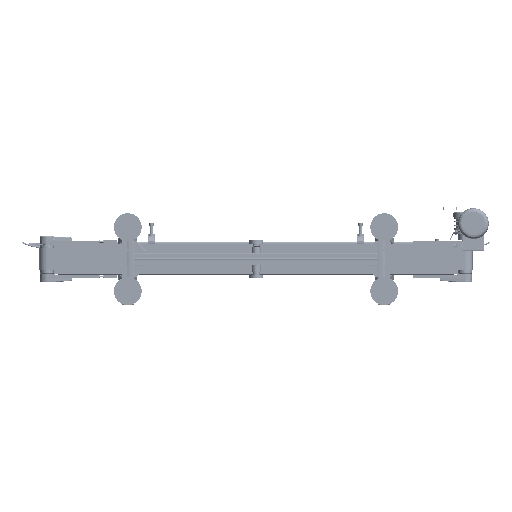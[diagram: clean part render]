
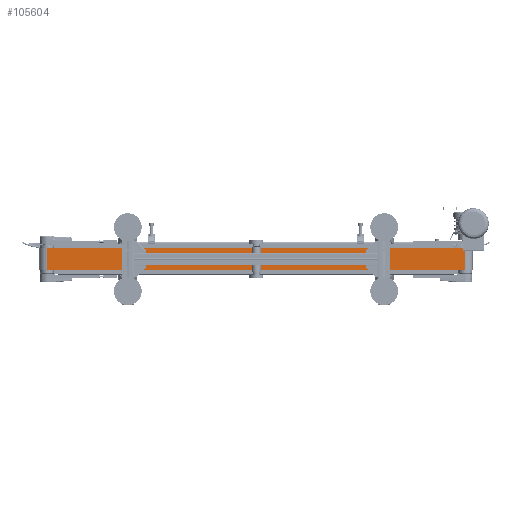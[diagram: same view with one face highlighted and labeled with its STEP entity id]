
A CAD part, front view. The second image highlights one B-rep face of the part: STEP entity #105604.
In plain terms, the highlighted planar face has unit normal (0, -1, 0).
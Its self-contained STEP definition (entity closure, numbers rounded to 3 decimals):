
#2155 = PLANE ( 'NONE',  #88275 ) ;
#2620 = CARTESIAN_POINT ( 'NONE',  ( -750., -27., 40. ) ) ;
#21370 = DIRECTION ( 'NONE',  ( 0., 0., 1. ) ) ;
#23276 = LINE ( 'NONE', #139730, #234085 ) ;
#47118 = ORIENTED_EDGE ( 'NONE', *, *, #78893, .F. ) ;
#55368 = VECTOR ( 'NONE', #115053, 1000. ) ;
#61022 = FACE_OUTER_BOUND ( 'NONE', #79147, .T. ) ;
#61584 = CARTESIAN_POINT ( 'NONE',  ( 750., -27., -40. ) ) ;
#68176 = VECTOR ( 'NONE', #140679, 1000. ) ;
#71289 = ORIENTED_EDGE ( 'NONE', *, *, #237011, .T. ) ;
#78893 = EDGE_CURVE ( 'NONE', #251795, #228684, #23276, .T. ) ;
#79147 = EDGE_LOOP ( 'NONE', ( #71289, #47118, #184615, #180663 ) ) ;
#80613 = VERTEX_POINT ( 'NONE', #99151 ) ;
#80675 = DIRECTION ( 'NONE',  ( 1., 0., 0. ) ) ;
#85696 = EDGE_CURVE ( 'NONE', #171650, #80613, #161166, .T. ) ;
#88275 = AXIS2_PLACEMENT_3D ( 'NONE', #180020, #232533, #21370 ) ;
#99151 = CARTESIAN_POINT ( 'NONE',  ( -750., -27., -40. ) ) ;
#105604 = ADVANCED_FACE ( 'NONE', ( #61022 ), #2155, .F. ) ;
#115053 = DIRECTION ( 'NONE',  ( 1., 0., 0. ) ) ;
#139730 = CARTESIAN_POINT ( 'NONE',  ( 750., -27., 40. ) ) ;
#140679 = DIRECTION ( 'NONE',  ( 0., 0., -1. ) ) ;
#161166 = LINE ( 'NONE', #239170, #68176 ) ;
#165474 = EDGE_CURVE ( 'NONE', #171650, #251795, #213820, .T. ) ;
#171650 = VERTEX_POINT ( 'NONE', #193640 ) ;
#172683 = LINE ( 'NONE', #250737, #55368 ) ;
#180020 = CARTESIAN_POINT ( 'NONE',  ( -750., -27., 40. ) ) ;
#180663 = ORIENTED_EDGE ( 'NONE', *, *, #85696, .T. ) ;
#184615 = ORIENTED_EDGE ( 'NONE', *, *, #165474, .F. ) ;
#190022 = CARTESIAN_POINT ( 'NONE',  ( 750., -27., 40. ) ) ;
#193640 = CARTESIAN_POINT ( 'NONE',  ( -750., -27., 40. ) ) ;
#197349 = DIRECTION ( 'NONE',  ( 0., 0., -1. ) ) ;
#213820 = LINE ( 'NONE', #2620, #241918 ) ;
#228684 = VERTEX_POINT ( 'NONE', #61584 ) ;
#232533 = DIRECTION ( 'NONE',  ( 0., 1., 0. ) ) ;
#234085 = VECTOR ( 'NONE', #197349, 1000. ) ;
#237011 = EDGE_CURVE ( 'NONE', #80613, #228684, #172683, .T. ) ;
#239170 = CARTESIAN_POINT ( 'NONE',  ( -750., -27., 40. ) ) ;
#241918 = VECTOR ( 'NONE', #80675, 1000. ) ;
#250737 = CARTESIAN_POINT ( 'NONE',  ( -750., -27., -40. ) ) ;
#251795 = VERTEX_POINT ( 'NONE', #190022 ) ;
